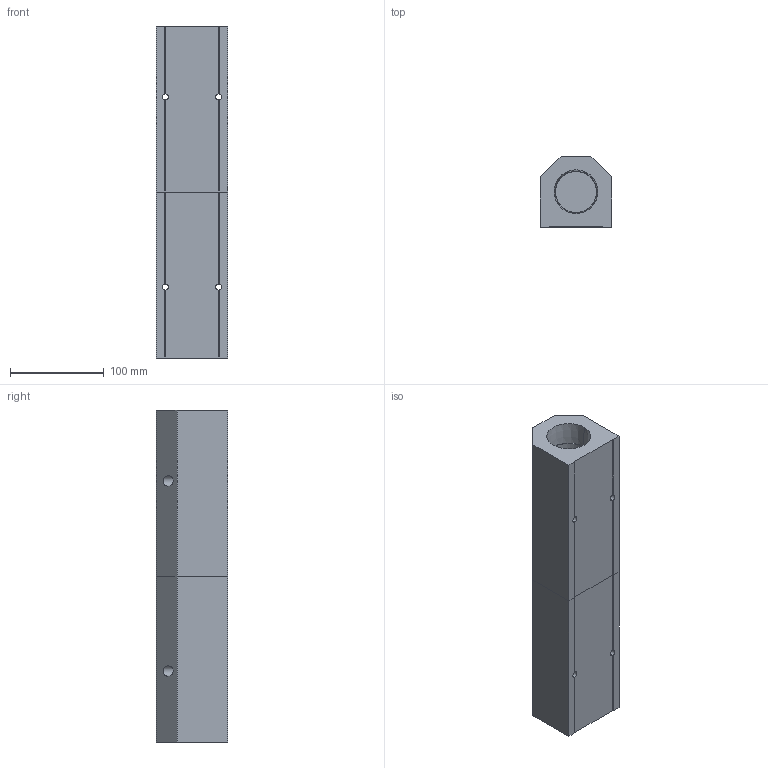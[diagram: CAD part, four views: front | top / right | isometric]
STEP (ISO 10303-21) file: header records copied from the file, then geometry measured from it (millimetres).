
FILE_DESCRIPTION (( 'STEP AP214' ), '1' );
FILE_NAME ('ALM6C-N4N24-355RB.step', '2022-02-07T07:52:15', ( '' ), ( '' ), 'SwSTEP 2.0', 'SolidWorks 2020', '' );
FILE_SCHEMA (( 'AUTOMOTIVE_DESIGN' ));
Length unit declared in the file: millimetre
Products named in the file (1): ALM6C-N4N24-355RB
Bounding box: 76.2 x 76.2 x 355 mm (x, y, z)
Volume: 1310179.2 mm3; surface area: 176982.3 mm2
Topology: 2 solids, 2 shells, 334 faces, 880 edges, 584 vertices
Faces by surface type: plane 227, bspline 71, cylinder 20, cone 16
Entity records: 18280 total; most frequent: CARTESIAN_POINT 7342, ORIENTED_EDGE 1760, DIRECTION 1290, EDGE_CURVE 880, LINE 658, VECTOR 658, VERTEX_POINT 584, EDGE_LOOP 388
